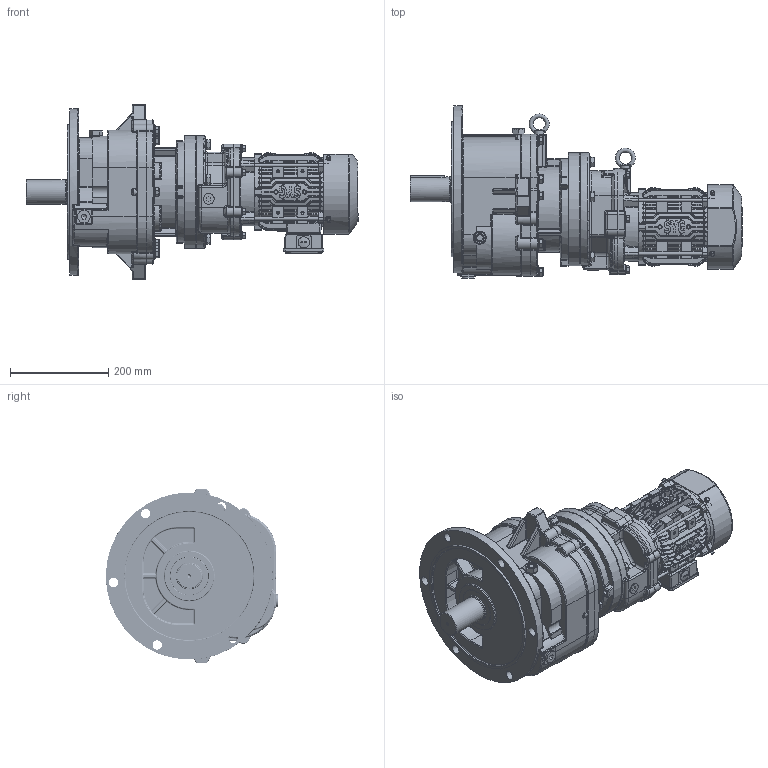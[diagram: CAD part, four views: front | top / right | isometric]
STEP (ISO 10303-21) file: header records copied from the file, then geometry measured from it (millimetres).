
FILE_DESCRIPTION(/* description */ (''),/* implementation_level */ '2;1');
FILE_NAME(/* name */ 'D:\▼ 3D：MG\01. 내부 직접 검토품\MG 고비율\MG181V135\외형도용 - ASS''Y\MG181V1350D_R0 - OUTLINE (SK2，VT，1.5kW).stp',/* time_stamp */ '2026-04-22T09:23:33+09:00',/* author */ ('이정훈'),/* organization */ (''),/* preprocessor_version */ 'ST-DEVELOPER v18.1',/* originating_system */ 'Autodesk Inventor 2022',/* authorisation */ '');
FILE_SCHEMA (('AUTOMOTIVE_DESIGN { 1 0 10303 214 3 1 1 }'));
Products named in the file (1): MG181V1350D_R0 - OUTLINE (SK2，VT，1.
5kW)
Bounding box: 676 x 351 x 356 mm (x, y, z)
Volume: 20159131.5 mm3; surface area: 995514.7 mm2
Topology: 1 solids, 1 shells, 5453 faces, 14082 edges, 8564 vertices
Faces by surface type: plane 2075, cylinder 1577, bspline 957, torus 373, cone 327, sphere 144
Full cylindrical faces by diameter (mm): 3 x2, 4 x1, 4.8 x4, 5 x4, 6 x8, 8 x10, 8.917 x2, 9 x3, 10 x18, 12 x13, 13 x4, 13.097 x2, 15 x4, 19 x6, 20 x1, 22 x1, 23 x2, 26 x1, 26.194 x2, 49.4 x1, 50 x1, 78 x1, 100 x1, 230 x2, 265 x1, 275 x1, 340 x1
Entity records: 218685 total; most frequent: CARTESIAN_POINT 89381, ORIENTED_EDGE 27928, DIRECTION 25682, EDGE_CURVE 13964, AXIS2_PLACEMENT_3D 9691, VERTEX_POINT 8564, LINE 6300, VECTOR 6300
